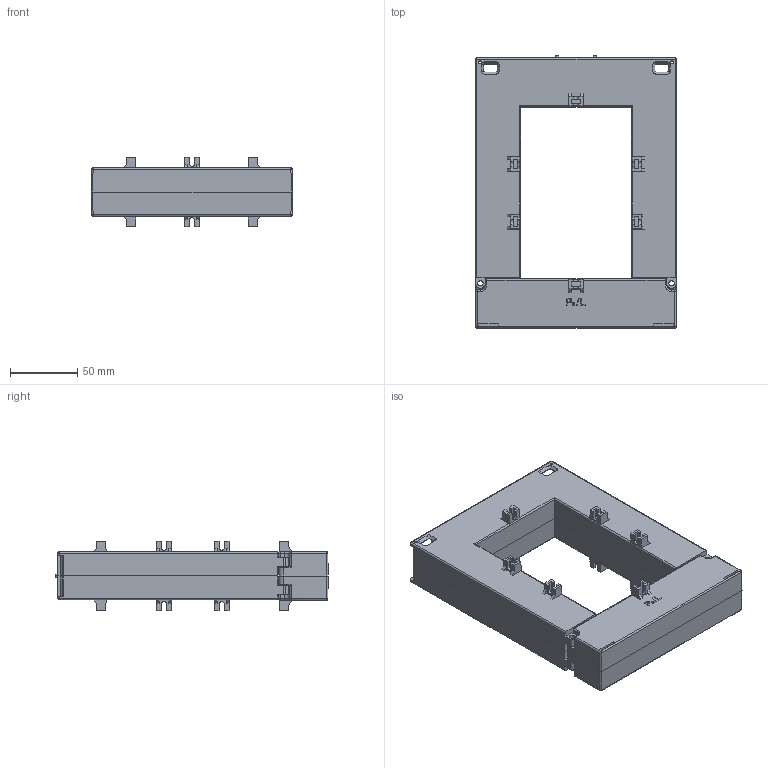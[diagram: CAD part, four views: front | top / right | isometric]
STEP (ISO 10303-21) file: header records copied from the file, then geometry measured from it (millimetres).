
FILE_DESCRIPTION(/* description */ (''),/* implementation_level */ '2;1');
FILE_NAME(/* name */ 'PL125（老产品图）.stp',/* time_stamp */ '2025-11-01T15:43:00+08:00',/* author */ (''),/* organization */ (''),/* preprocessor_version */ 'ST-DEVELOPER v18.102',/* originating_system */ 'SIEMENS PLM Software NX2206.1700',/* authorisation */ '');
FILE_SCHEMA (('AUTOMOTIVE_DESIGN { 1 0 10303 214 3 1 1 1 }'));
Length unit declared in the file: millimetre
Products named in the file (1): PL125（老产品图）_objects
Bounding box: 150 x 203.03 x 52 mm (x, y, z)
Volume: 190435 mm3; surface area: 176557.1 mm2
Topology: 4 solids, 4 shells, 1225 faces, 3435 edges, 2248 vertices
Faces by surface type: plane 916, cylinder 231, cone 36, bspline 16, extrusion 14, sphere 8, torus 4
Full cylindrical faces by diameter (mm): 1.002 x4, 4.008 x4, 4.2 x4, 5.2 x2, 5.5 x2
Entity records: 39775 total; most frequent: CARTESIAN_POINT 8325, ORIENTED_EDGE 6790, DIRECTION 6073, EDGE_CURVE 3395, VECTOR 2721, LINE 2707, VERTEX_POINT 2244, AXIS2_PLACEMENT_3D 1676
